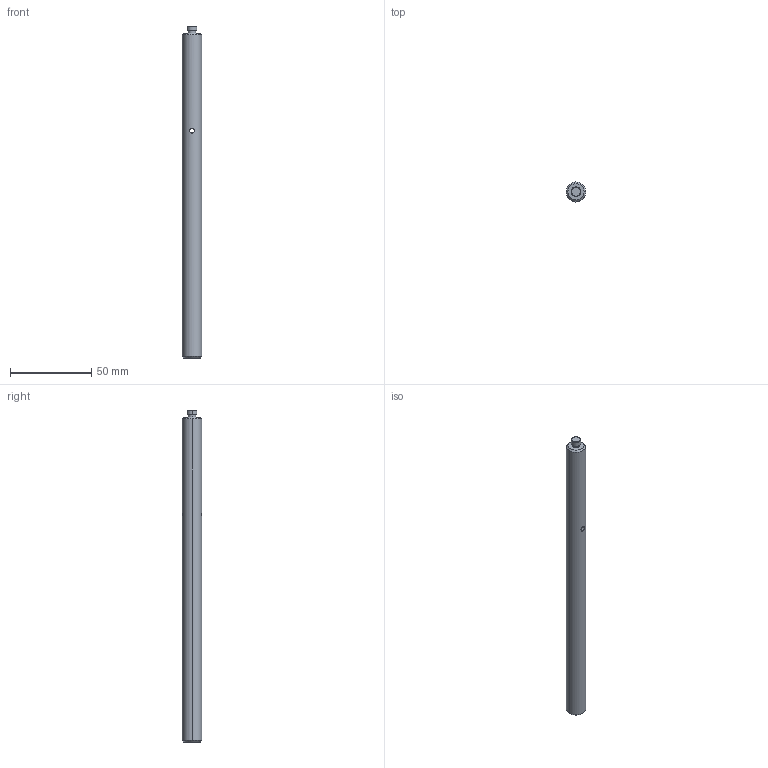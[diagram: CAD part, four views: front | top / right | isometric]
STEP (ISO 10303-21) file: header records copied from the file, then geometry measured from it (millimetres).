
FILE_DESCRIPTION (( 'STEP AP203' ), '1' );
FILE_NAME ('PHSP12-6.step', '2019-05-09T09:08:17', ( '' ), ( '' ), 'SwSTEP 2.0', 'SolidWorks 2016', '' );
FILE_SCHEMA (( 'CONFIG_CONTROL_DESIGN' ));
Length unit declared in the file: millimetre
Products named in the file (1): PHSP12-6
Bounding box: 12 x 12 x 204.5 mm (x, y, z)
Volume: 22283.6 mm3; surface area: 8170 mm2
Topology: 1 solids, 1 shells, 22 faces, 46 edges, 27 vertices
Faces by surface type: cylinder 10, cone 8, plane 4
Entity records: 751 total; most frequent: CARTESIAN_POINT 198, DIRECTION 108, ORIENTED_EDGE 88, AXIS2_PLACEMENT_3D 45, EDGE_CURVE 44, VERTEX_POINT 27, EDGE_LOOP 27, FACE_OUTER_BOUND 22
